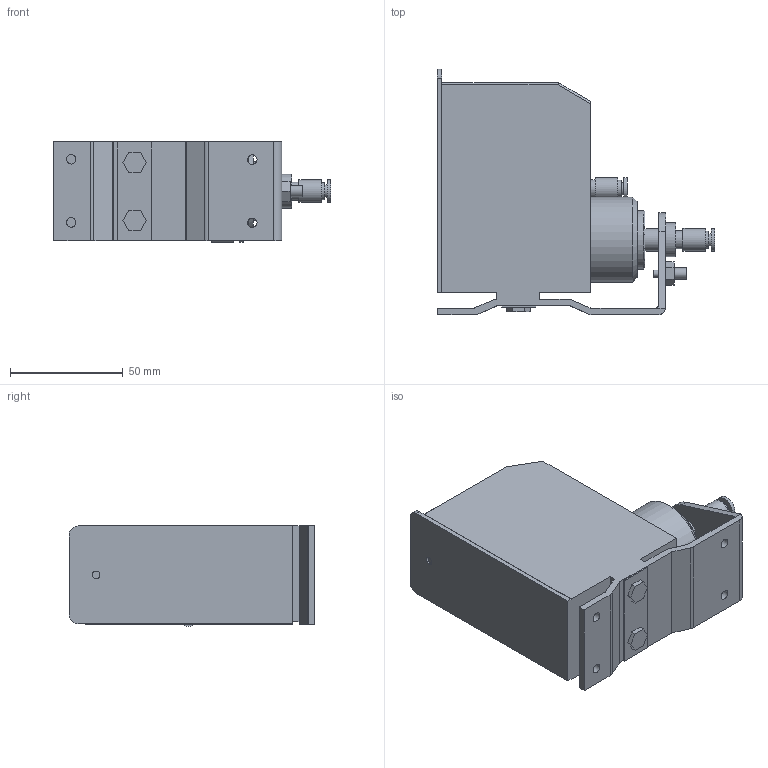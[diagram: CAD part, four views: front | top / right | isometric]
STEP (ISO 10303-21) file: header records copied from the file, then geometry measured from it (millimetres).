
FILE_DESCRIPTION(/* description */ (''),/* implementation_level */ '2;1');
FILE_NAME(/* name */ 'W:\Technik\Konstruktion\CAD-Daten\DFl\Vessel\GT-NT20-6\GT-NT20-6.stp',/* time_stamp */ '2017-06-07T13:56:33+02:00',/* author */ ('DFloßmann'),/* organization */ (''),/* preprocessor_version */ 'ST-DEVELOPER v16.5',/* originating_system */ 'Autodesk Inventor 2017',/* authorisation */ '');
FILE_SCHEMA (('AUTOMOTIVE_DESIGN { 1 0 10303 214 3 1 1 }'));
Length unit declared in the file: millimetre
Products named in the file (1): GT-NT20-6
Bounding box: 123.18 x 109.08 x 44.71 mm (x, y, z)
Volume: 317990.6 mm3; surface area: 44491.1 mm2
Topology: 1 solids, 1 shells, 133 faces, 317 edges, 208 vertices
Faces by surface type: plane 93, cylinder 37, cone 3
Full cylindrical faces by diameter (mm): 3.131 x1, 3.4 x2, 4.2 x4, 4.208 x2, 5 x1, 5.511 x2, 7.515 x2, 8 x2, 10 x2, 10.019 x3, 15 x1, 26 x1, 37.8 x1
Entity records: 3751 total; most frequent: DIRECTION 639, CARTESIAN_POINT 632, ORIENTED_EDGE 580, EDGE_CURVE 290, AXIS2_PLACEMENT_3D 215, LINE 209, VECTOR 209, VERTEX_POINT 208
